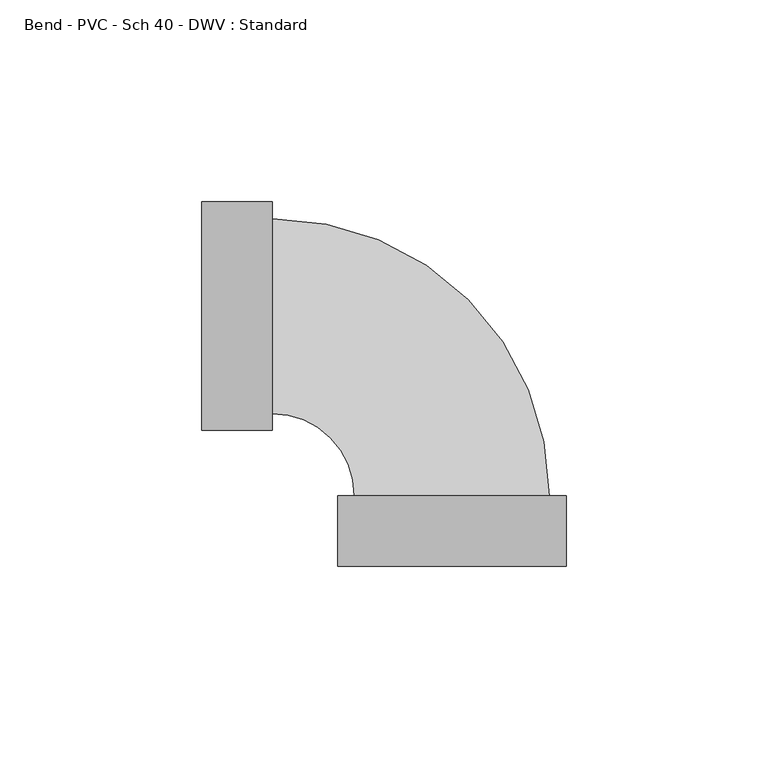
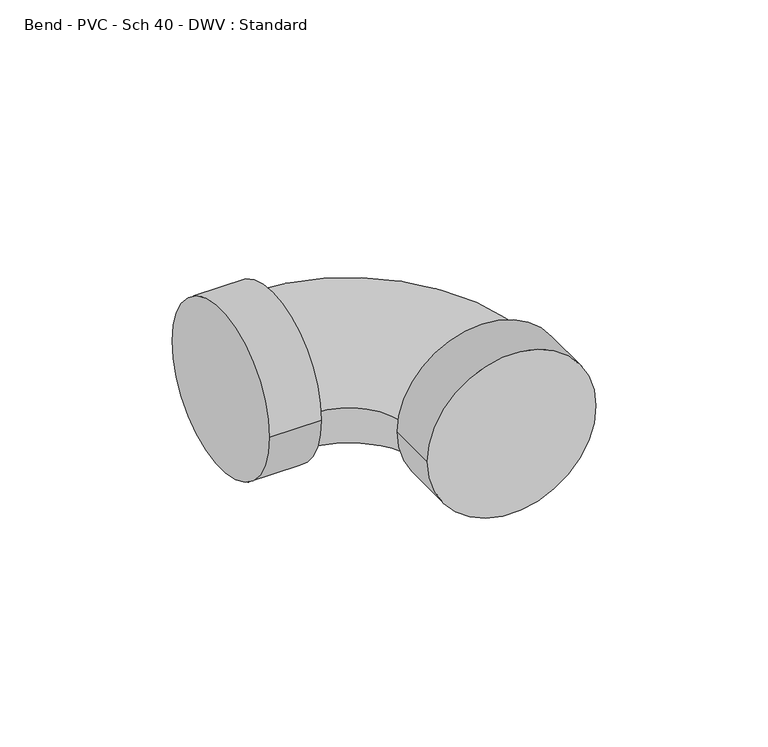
"""IFC4 building model written with IfcOpenShell, lengths in millimetres: pipe fitting geometry, Bend - PVC - Sch 40 - DWV : Standard."""

from ifc_helpers import new_model, si_unit, point, frame, origin, place, context, project, spatial, circle_curve, ellipse_curve, trimmed, source, transform, mapped, element, save
from ifc_brep_helpers import plane_surface, cylinder_surface, revolved_surface, advanced_brep


def bend_pvc_sch_40_dwv_standard_35af41d9(model_context):
    return source(origin(), model_context, "Body", "AdvancedBrep", [
        advanced_brep(
        [(-61.8998, 28.2829, 0.0), (-61.8998, -28.2829, 0.0), (-44.45, 28.2829, 0.0), (-44.45, -28.2829, 0.0), (-44.45, 24.13, 0.0), (-44.45, -24.13, 0.0), (-24.13, -44.45, 0.0), (24.13, -44.45, 0.0), (28.2829, -44.45, 0.0), (-28.2829, -44.45, 0.0), (28.2829, -61.8998, 0.0), (-28.2829, -61.8998, 0.0)],
        [
            (0, 1, circle_curve(frame((-61.8998, 0.0, 0.0), z_axis=(-1.0, 0.0, 0.0), x_axis=(0.0, -1.0, 0.0)), 28.2829)),
            (1, 0, circle_curve(frame((-61.8998, 0.0, 0.0), z_axis=(-1.0, 0.0, 0.0), x_axis=(0.0, -1.0, 0.0)), 28.2829)),
            (2, 3, circle_curve(frame((-44.45, 0.0, 0.0), z_axis=(1.0, 0.0, 0.0), x_axis=(0.0, -1.0, 0.0)), 28.2829)),
            (3, 2, circle_curve(frame((-44.45, 0.0, 0.0), z_axis=(1.0, 0.0, 0.0), x_axis=(0.0, -1.0, 0.0)), 28.2829)),
            (4, 5, circle_curve(frame((-44.45, 0.0, 0.0), z_axis=(-1.0, 0.0, 0.0), x_axis=(0.0, -1.0, 0.0)), 24.13)),
            (5, 4, circle_curve(frame((-44.45, 0.0, 0.0), z_axis=(-1.0, 0.0, 0.0), x_axis=(0.0, -1.0, 0.0)), 24.13)),
            (1, 3),
            (2, 0),
            (6, 7, circle_curve(frame((0.0, -44.45, 0.0), z_axis=(0.0, 1.0, 0.0), x_axis=(-1.0, 0.0, 0.0)), 24.13)),
            (7, 4, circle_curve(frame((-44.45, -44.45, 0.0), z_axis=(0.0, 0.0, 1.0), x_axis=(0.0, 1.0, 0.0)), 68.58)),
            (5, 6, circle_curve(frame((-44.45, -44.45, 0.0), z_axis=(0.0, 0.0, -1.0), x_axis=(0.0, 1.0, 0.0)), 20.32)),
            (7, 6, circle_curve(frame((0.0, -44.45, 0.0), z_axis=(0.0, 1.0, 0.0), x_axis=(-1.0, 0.0, 0.0)), 24.13)),
            (8, 9, circle_curve(frame((0.0, -44.45, 0.0), z_axis=(0.0, 1.0, 0.0), x_axis=(-1.0, 0.0, 0.0)), 28.2829)),
            (9, 8, circle_curve(frame((0.0, -44.45, 0.0), z_axis=(0.0, 1.0, 0.0), x_axis=(-1.0, 0.0, 0.0)), 28.2829)),
            (10, 11, circle_curve(frame((0.0, -61.8998, 0.0), z_axis=(0.0, -1.0, 0.0), x_axis=(-1.0, 0.0, 0.0)), 28.2829)),
            (11, 10, circle_curve(frame((0.0, -61.8998, 0.0), z_axis=(0.0, -1.0, 0.0), x_axis=(-1.0, 0.0, 0.0)), 28.2829)),
            (9, 11),
            (10, 8),
        ],
        [
            plane_surface(frame((-61.8998, 0.0, 0.0), z_axis=(-1.0, 0.0, 0.0), x_axis=(0.0, 0.0, 1.0))),
            plane_surface(frame((-44.45, 0.0, 0.0), z_axis=(1.0, 0.0, 0.0), x_axis=(0.0, 0.0, 1.0))),
            cylinder_surface(frame((-61.8998, 0.0, 0.0), z_axis=(-1.0, 0.0, 0.0), x_axis=(0.0, -1.0, 0.0)), 28.2829),
            revolved_surface(trimmed(ellipse_curve(frame((-44.45, 0.0, 0.0), z_axis=(1.0, 0.0, 0.0), x_axis=(0.0, -1.0, 0.0)), 24.13, 24.13), [point((-44.45, 24.13, 0.0))], [point((-44.45, -24.13, 0.0))], True, "CARTESIAN"), (-44.45, -44.45, 0.0), (0.0, 0.0, 1.0)),
            revolved_surface(trimmed(ellipse_curve(frame((-44.45, 0.0, 0.0), z_axis=(1.0, 0.0, 0.0), x_axis=(0.0, -1.0, 0.0)), 24.13, 24.13), [point((-44.45, -24.13, 0.0))], [point((-44.45, 24.13, 0.0))], True, "CARTESIAN"), (-44.45, -44.45, 0.0), (0.0, 0.0, 1.0)),
            plane_surface(frame((0.0, -44.45, 0.0), z_axis=(0.0, 1.0, 0.0), x_axis=(0.0, 0.0, 1.0))),
            plane_surface(frame((0.0, -61.8998, 0.0), z_axis=(0.0, -1.0, 0.0), x_axis=(0.0, 0.0, 1.0))),
            cylinder_surface(frame((0.0, -44.45, 0.0), z_axis=(0.0, 1.0, 0.0), x_axis=(-1.0, 0.0, 0.0)), 28.2829),
        ],
        [
            (0, [[1, 2]]),
            (1, [[3, 4], [5, 6]]),
            (2, [[7, -3, 8, -2]]),
            (2, [[-8, -4, -7, -1]]),
            (3, [[9, 10, -6, 11]]),
            (4, [[-5, -10, 12, -11]]),
            (5, [[13, 14], [-12, -9]]),
            (6, [[15, 16]]),
            (7, [[17, -15, 18, -14]]),
            (7, [[-18, -16, -17, -13]]),
        ],
    ),
    ])


if __name__ == "__main__":
    model = new_model("IFC4")
    model_context = context("Model", 3, world=origin())
    ifc_project = project(units=[si_unit("LENGTHUNIT", "METRE", prefix="MILLI")], contexts=[model_context])
    site = spatial("IfcSite", under=ifc_project)
    building = spatial("IfcBuilding", under=site)
    placement = place(None, origin())
    bend_pvc_sch_40_dwv_standard_shape = bend_pvc_sch_40_dwv_standard_35af41d9(model_context)
    element("IfcPipeFitting", 1, ObjectType="Bend - PVC - Sch 40 - DWV : Standard", at=placement, inside=building, context=model_context, shape_type="MappedRepresentation", body=[
        mapped(bend_pvc_sch_40_dwv_standard_shape, transform((0.0, 0.0, 0.0), x_axis=(1.0, 0.0, 0.0), y_axis=(0.0, 1.0, 0.0), z_axis=(0.0, 0.0, 1.0))),
    ])
    save(model, "model.ifc")
